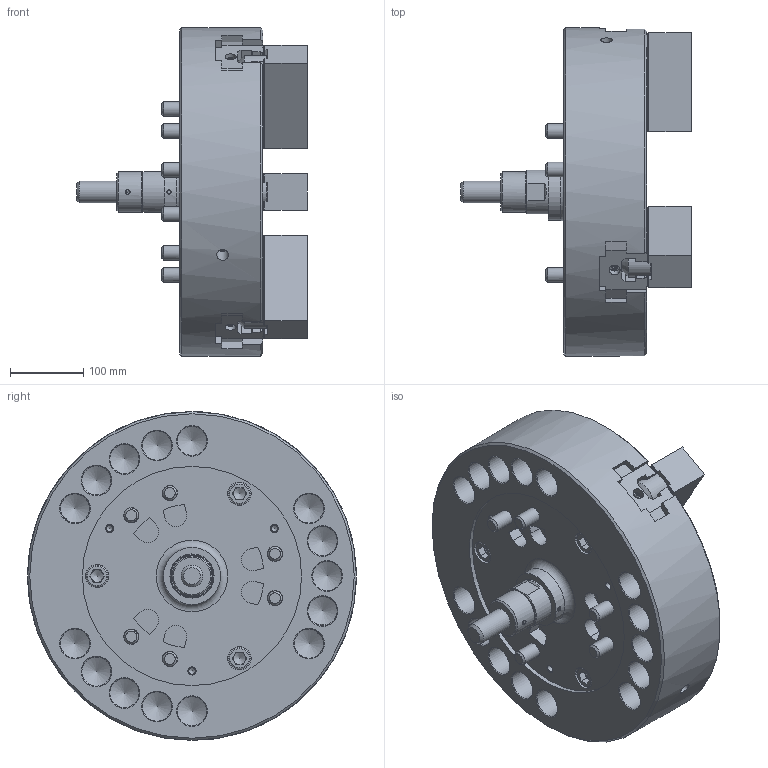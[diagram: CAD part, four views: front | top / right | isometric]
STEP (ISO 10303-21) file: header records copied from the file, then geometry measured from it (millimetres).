
FILE_DESCRIPTION (( 'STEP AP214' ), '1' );
FILE_NAME ('N-18_OC.STEP', '2020-01-24T07:14:07', ( '' ), ( '' ), 'SwSTEP 2.0', 'SolidWorks 2017', '' );
FILE_SCHEMA (( 'AUTOMOTIVE_DESIGN' ));
Length unit declared in the file: millimetre
Products named in the file (21): 61P418536-0_T僫僢僩b_g; B傾僫僣僉 M20亊550_~55; 61P418536-0_T僫僢僩b_g_棉太倌佱UA; 61P321128-2_ソフトジョー_W_‡_[; Part3^61P241353-4_僋儈僞僥_^_e_棉太倌I佱UA; B傾僫僣僉 M20亊550_~55_棉太倌TI佱UA; N-18_OC; 61P321128-2_ソフトジョー_W_‡_[_ﾃﾞﾌｫﾙﾄ_ATI≪UA; Part3^61P241353-4_クミタテ_^_e
Assembly tree (16 placements, depth 2):
  61P418536-0_T僫僢僩b_g
  B傾僫僣僉 M20亊550_~55
  B傾僫僣僉 M20亊550_~55
  61P418536-0_T僫僢僩b_g
  61P418536-0_T僫僢僩b_g
Bounding box: 316.2 x 450 x 450 mm (x, y, z)
Volume: 17486388.7 mm3; surface area: 1048219.9 mm2
Topology: 16 solids, 34 shells, 4157 faces, 11884 edges, 7848 vertices
Faces by surface type: plane 3740, cylinder 262, cone 130, torus 19, sphere 6
Full cylindrical faces by diameter (mm): 1.9 x3, 3.3 x6, 4.5 x3, 6 x4, 6.6 x3, 6.8 x1, 8 x3, 8.5 x3, 9 x3, 10 x3, 10.5 x3, 11 x3, 14 x2, 15 x3, 16 x2, 20 x18, 21 x12, 30 x16, 32 x9, 40 x15, 55 x1, 60 x2, 60.5 x2, 78 x1, 300 x1, 450 x1
Entity records: 91221 total; most frequent: CARTESIAN_POINT 17066, ORIENTED_EDGE 15738, DIRECTION 14242, EDGE_CURVE 7869, VECTOR 7014, LINE 7014, VERTEX_POINT 5280, AXIS2_PLACEMENT_3D 3614
